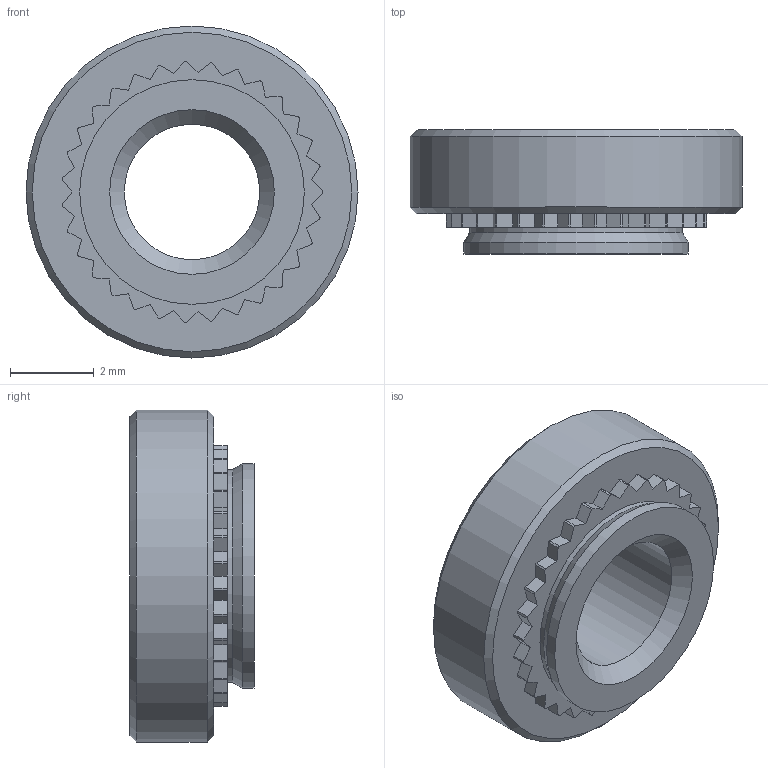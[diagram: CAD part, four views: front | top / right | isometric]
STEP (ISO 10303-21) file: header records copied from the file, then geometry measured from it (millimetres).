
FILE_DESCRIPTION(/* description */ (''),/* implementation_level */ '2;1');
FILE_NAME(/* name */ 'C:\Users\keval.kumar\Desktop\Fastit\Clinch nut\M4\Clinch Nut_M4_1.stp',/* time_stamp */ '2024-03-14T09:36:25+05:00',/* author */ ('keval.kumar'),/* organization */ (''),/* preprocessor_version */ 'ST-DEVELOPER v18.1',/* originating_system */ 'Autodesk Inventor 2022',/* authorisation */ '');
FILE_SCHEMA (('AUTOMOTIVE_DESIGN { 1 0 10303 214 3 1 1 }'));
Length unit declared in the file: millimetre
Products named in the file (1): Clinch Nut_M4_1
Bounding box: 7.95 x 2.97 x 7.95 mm (x, y, z)
Volume: 96.2 mm3; surface area: 176.4 mm2
Topology: 1 solids, 1 shells, 106 faces, 303 edges, 201 vertices
Faces by surface type: plane 66, cylinder 35, cone 5
Full cylindrical faces by diameter (mm): 3.242 x1, 5.1 x1, 5.38 x1, 7.95 x1
Entity records: 3507 total; most frequent: CARTESIAN_POINT 611, ORIENTED_EDGE 606, DIRECTION 594, EDGE_CURVE 303, LINE 226, VECTOR 226, VERTEX_POINT 201, AXIS2_PLACEMENT_3D 184
